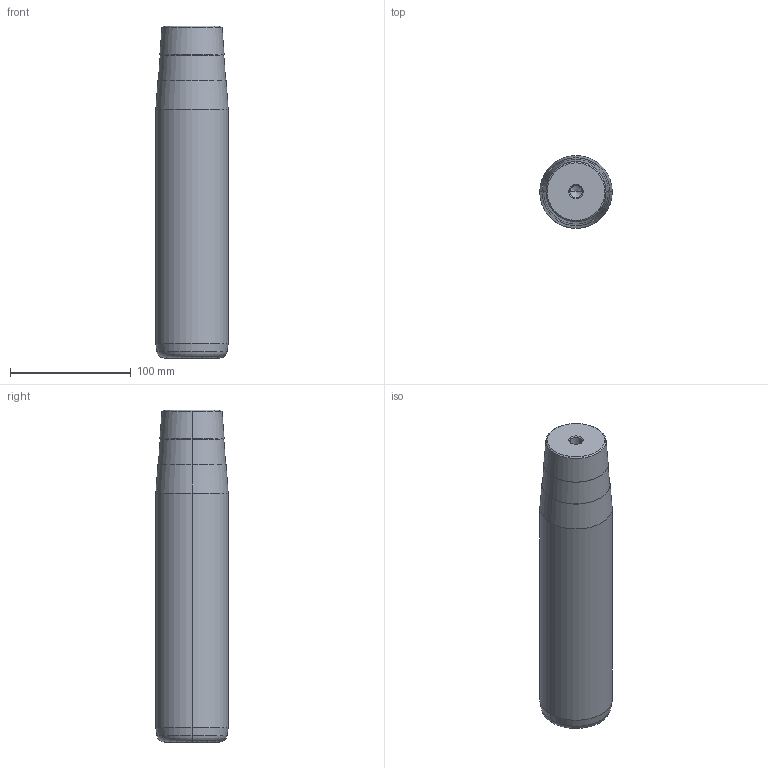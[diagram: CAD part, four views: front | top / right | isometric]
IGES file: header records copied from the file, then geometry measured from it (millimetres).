
Start section: START RECORD GO HERE.
Global section: file name: 722-60x224x275.igs; native system: DASSAULT SYSTEMES CATIA V5 R20 - www.3ds.com; preprocessor: CATIA Version 5 Release 20 ; author: Utente; organization: NB04-ASUS; date: 20210107.203116; units: millimetre
Bounding box: 60 x 60 x 275 mm (x, y, z)
Surface area: 56583.5 mm2 (no closed solid volume)
Topology: 0 solids, 0 shells, 32 faces, 128 edges, 124 vertices
Faces by surface type: revolution 30, plane 2
